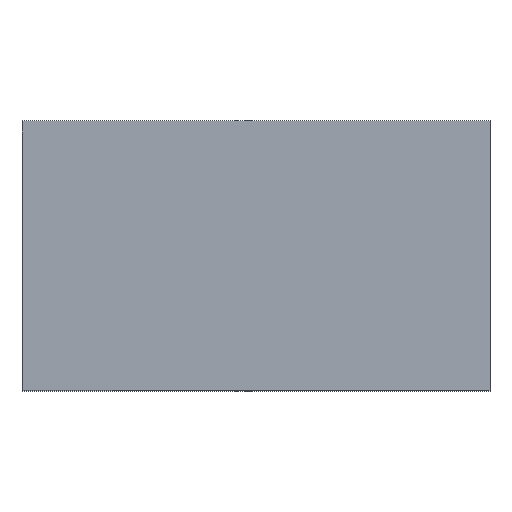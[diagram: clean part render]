
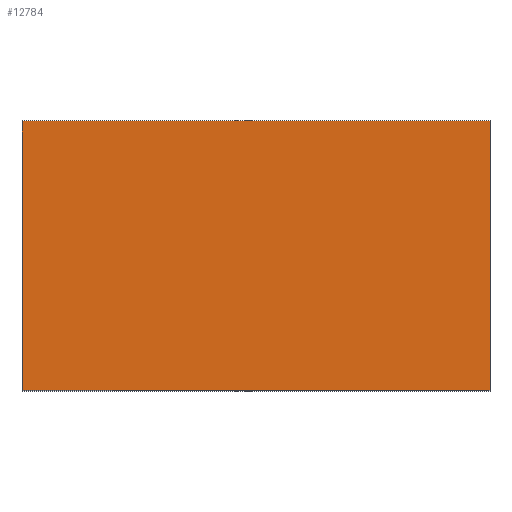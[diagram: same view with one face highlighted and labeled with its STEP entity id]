
A CAD part, top view. The second image highlights one B-rep face of the part: STEP entity #12784.
In plain terms, the highlighted planar face has unit normal (0, 0, 1).
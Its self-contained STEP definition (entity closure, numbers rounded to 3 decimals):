
#32 = PLANE('',#33);
#33 = AXIS2_PLACEMENT_3D('',#34,#35,#36);
#34 = CARTESIAN_POINT('',(-9.,-22.,158.381));
#35 = DIRECTION('',(1.,0.,0.));
#36 = DIRECTION('',(0.,0.,1.));
#44 = PLANE('',#45);
#45 = AXIS2_PLACEMENT_3D('',#46,#47,#48);
#46 = CARTESIAN_POINT('',(-9.,-22.,158.381));
#47 = DIRECTION('',(0.,1.,0.));
#48 = DIRECTION('',(0.,0.,1.));
#100 = PLANE('',#101);
#101 = AXIS2_PLACEMENT_3D('',#102,#103,#104);
#102 = CARTESIAN_POINT('',(-9.,22.9,158.381));
#103 = DIRECTION('',(0.,1.,0.));
#104 = DIRECTION('',(0.,0.,1.));
#311 = VERTEX_POINT('',#312);
#312 = CARTESIAN_POINT('',(-9.,22.9,218.731));
#333 = EDGE_CURVE('',#334,#311,#336,.T.);
#334 = VERTEX_POINT('',#335);
#335 = CARTESIAN_POINT('',(-9.,-22.,218.731));
#336 = SURFACE_CURVE('',#337,(#341,#348),.PCURVE_S1.);
#337 = LINE('',#338,#339);
#338 = CARTESIAN_POINT('',(-9.,-22.,218.731));
#339 = VECTOR('',#340,1.);
#340 = DIRECTION('',(0.,1.,0.));
#341 = PCURVE('',#32,#342);
#342 = DEFINITIONAL_REPRESENTATION('',(#343),#347);
#343 = LINE('',#344,#345);
#344 = CARTESIAN_POINT('',(60.35,0.));
#345 = VECTOR('',#346,1.);
#346 = DIRECTION('',(0.,-1.));
#347 = ( GEOMETRIC_REPRESENTATION_CONTEXT(2) 
PARAMETRIC_REPRESENTATION_CONTEXT() REPRESENTATION_CONTEXT('2D SPACE',''
  ) );
#348 = PCURVE('',#349,#354);
#349 = PLANE('',#350);
#350 = AXIS2_PLACEMENT_3D('',#351,#352,#353);
#351 = CARTESIAN_POINT('',(-9.,-22.,218.731));
#352 = DIRECTION('',(0.,0.,1.));
#353 = DIRECTION('',(1.,0.,0.));
#354 = DEFINITIONAL_REPRESENTATION('',(#355),#359);
#355 = LINE('',#356,#357);
#356 = CARTESIAN_POINT('',(0.,0.));
#357 = VECTOR('',#358,1.);
#358 = DIRECTION('',(0.,1.));
#359 = ( GEOMETRIC_REPRESENTATION_CONTEXT(2) 
PARAMETRIC_REPRESENTATION_CONTEXT() REPRESENTATION_CONTEXT('2D SPACE',''
  ) );
#12380 = PLANE('',#12381);
#12381 = AXIS2_PLACEMENT_3D('',#12382,#12383,#12384);
#12382 = CARTESIAN_POINT('',(69.,-22.,158.381));
#12383 = DIRECTION('',(1.,0.,0.));
#12384 = DIRECTION('',(0.,0.,1.));
#12489 = EDGE_CURVE('',#334,#12490,#12492,.T.);
#12490 = VERTEX_POINT('',#12491);
#12491 = CARTESIAN_POINT('',(69.,-22.,218.731));
#12492 = SURFACE_CURVE('',#12493,(#12497,#12504),.PCURVE_S1.);
#12493 = LINE('',#12494,#12495);
#12494 = CARTESIAN_POINT('',(-9.,-22.,218.731));
#12495 = VECTOR('',#12496,1.);
#12496 = DIRECTION('',(1.,0.,0.));
#12497 = PCURVE('',#44,#12498);
#12498 = DEFINITIONAL_REPRESENTATION('',(#12499),#12503);
#12499 = LINE('',#12500,#12501);
#12500 = CARTESIAN_POINT('',(60.35,0.));
#12501 = VECTOR('',#12502,1.);
#12502 = DIRECTION('',(0.,1.));
#12503 = ( GEOMETRIC_REPRESENTATION_CONTEXT(2) 
PARAMETRIC_REPRESENTATION_CONTEXT() REPRESENTATION_CONTEXT('2D SPACE',''
  ) );
#12504 = PCURVE('',#349,#12505);
#12505 = DEFINITIONAL_REPRESENTATION('',(#12506),#12510);
#12506 = LINE('',#12507,#12508);
#12507 = CARTESIAN_POINT('',(0.,0.));
#12508 = VECTOR('',#12509,1.);
#12509 = DIRECTION('',(1.,0.));
#12510 = ( GEOMETRIC_REPRESENTATION_CONTEXT(2) 
PARAMETRIC_REPRESENTATION_CONTEXT() REPRESENTATION_CONTEXT('2D SPACE',''
  ) );
#12784 = ADVANCED_FACE('',(#12785),#349,.T.);
#12785 = FACE_BOUND('',#12786,.T.);
#12786 = EDGE_LOOP('',(#12787,#12788,#12789,#12812));
#12787 = ORIENTED_EDGE('',*,*,#333,.F.);
#12788 = ORIENTED_EDGE('',*,*,#12489,.T.);
#12789 = ORIENTED_EDGE('',*,*,#12790,.T.);
#12790 = EDGE_CURVE('',#12490,#12791,#12793,.T.);
#12791 = VERTEX_POINT('',#12792);
#12792 = CARTESIAN_POINT('',(69.,22.9,218.731));
#12793 = SURFACE_CURVE('',#12794,(#12798,#12805),.PCURVE_S1.);
#12794 = LINE('',#12795,#12796);
#12795 = CARTESIAN_POINT('',(69.,-22.,218.731));
#12796 = VECTOR('',#12797,1.);
#12797 = DIRECTION('',(0.,1.,0.));
#12798 = PCURVE('',#349,#12799);
#12799 = DEFINITIONAL_REPRESENTATION('',(#12800),#12804);
#12800 = LINE('',#12801,#12802);
#12801 = CARTESIAN_POINT('',(78.,0.));
#12802 = VECTOR('',#12803,1.);
#12803 = DIRECTION('',(0.,1.));
#12804 = ( GEOMETRIC_REPRESENTATION_CONTEXT(2) 
PARAMETRIC_REPRESENTATION_CONTEXT() REPRESENTATION_CONTEXT('2D SPACE',''
  ) );
#12805 = PCURVE('',#12380,#12806);
#12806 = DEFINITIONAL_REPRESENTATION('',(#12807),#12811);
#12807 = LINE('',#12808,#12809);
#12808 = CARTESIAN_POINT('',(60.35,0.));
#12809 = VECTOR('',#12810,1.);
#12810 = DIRECTION('',(0.,-1.));
#12811 = ( GEOMETRIC_REPRESENTATION_CONTEXT(2) 
PARAMETRIC_REPRESENTATION_CONTEXT() REPRESENTATION_CONTEXT('2D SPACE',''
  ) );
#12812 = ORIENTED_EDGE('',*,*,#12813,.F.);
#12813 = EDGE_CURVE('',#311,#12791,#12814,.T.);
#12814 = SURFACE_CURVE('',#12815,(#12819,#12826),.PCURVE_S1.);
#12815 = LINE('',#12816,#12817);
#12816 = CARTESIAN_POINT('',(-9.,22.9,218.731));
#12817 = VECTOR('',#12818,1.);
#12818 = DIRECTION('',(1.,0.,0.));
#12819 = PCURVE('',#349,#12820);
#12820 = DEFINITIONAL_REPRESENTATION('',(#12821),#12825);
#12821 = LINE('',#12822,#12823);
#12822 = CARTESIAN_POINT('',(0.,44.9));
#12823 = VECTOR('',#12824,1.);
#12824 = DIRECTION('',(1.,0.));
#12825 = ( GEOMETRIC_REPRESENTATION_CONTEXT(2) 
PARAMETRIC_REPRESENTATION_CONTEXT() REPRESENTATION_CONTEXT('2D SPACE',''
  ) );
#12826 = PCURVE('',#100,#12827);
#12827 = DEFINITIONAL_REPRESENTATION('',(#12828),#12832);
#12828 = LINE('',#12829,#12830);
#12829 = CARTESIAN_POINT('',(60.35,0.));
#12830 = VECTOR('',#12831,1.);
#12831 = DIRECTION('',(0.,1.));
#12832 = ( GEOMETRIC_REPRESENTATION_CONTEXT(2) 
PARAMETRIC_REPRESENTATION_CONTEXT() REPRESENTATION_CONTEXT('2D SPACE',''
  ) );
